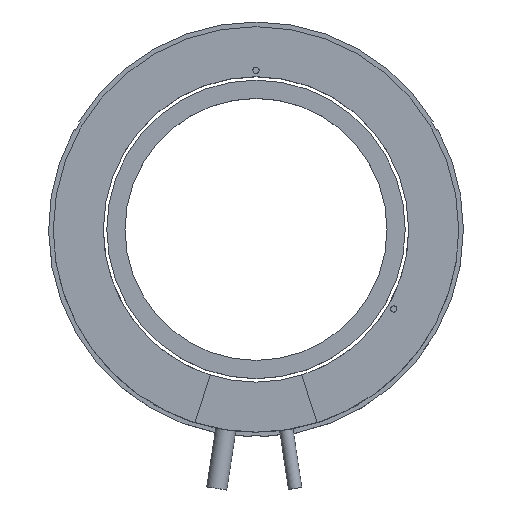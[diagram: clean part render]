
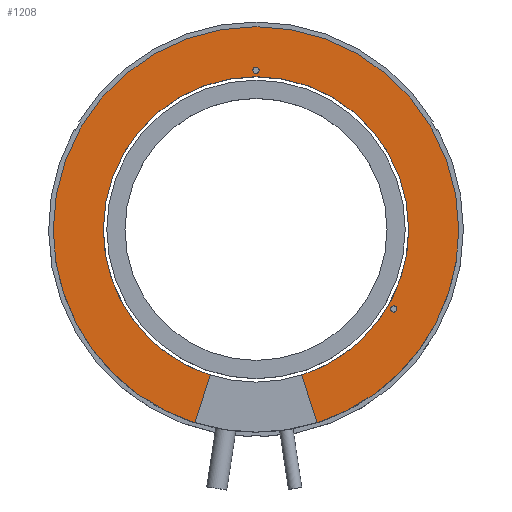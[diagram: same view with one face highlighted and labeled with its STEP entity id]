
A CAD part, top view. The second image highlights one B-rep face of the part: STEP entity #1208.
In plain terms, the highlighted planar face has unit normal (0, 0, 1).
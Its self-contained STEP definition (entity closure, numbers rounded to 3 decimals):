
#4 = DIRECTION ( 'NONE',  ( 1., 0., 0. ) ) ;
#9 = EDGE_LOOP ( 'NONE', ( #874, #283, #727, #1121, #146, #1449, #138, #382 ) ) ;
#34 = VERTEX_POINT ( 'NONE', #1109 ) ;
#52 = VERTEX_POINT ( 'NONE', #1225 ) ;
#61 = DIRECTION ( 'NONE',  ( 1., 0., 0. ) ) ;
#77 = DIRECTION ( 'NONE',  ( 1., 0., 0. ) ) ;
#138 = ORIENTED_EDGE ( 'NONE', *, *, #591, .F. ) ;
#146 = ORIENTED_EDGE ( 'NONE', *, *, #867, .F. ) ;
#148 = LINE ( 'NONE', #1209, #199 ) ;
#150 = DIRECTION ( 'NONE',  ( 0., 0., 1. ) ) ;
#157 = CIRCLE ( 'NONE', #842, 48.95 ) ;
#165 = AXIS2_PLACEMENT_3D ( 'NONE', #1161, #150, #1167 ) ;
#177 = DIRECTION ( 'NONE',  ( 0., 0., 1. ) ) ;
#185 = CIRCLE ( 'NONE', #1029, 65. ) ;
#199 = VECTOR ( 'NONE', #631, 1000. ) ;
#254 = CARTESIAN_POINT ( 'NONE',  ( 19.546, -61.992, 25. ) ) ;
#260 = VERTEX_POINT ( 'NONE', #1042 ) ;
#272 = EDGE_CURVE ( 'NONE', #722, #52, #693, .T. ) ;
#283 = ORIENTED_EDGE ( 'NONE', *, *, #710, .T. ) ;
#285 = CARTESIAN_POINT ( 'NONE',  ( 65., 0., 25. ) ) ;
#315 = DIRECTION ( 'NONE',  ( 0., 0., 1. ) ) ;
#329 = DIRECTION ( 'NONE',  ( 0., 0., 1. ) ) ;
#353 = AXIS2_PLACEMENT_3D ( 'NONE', #479, #932, #582 ) ;
#354 = AXIS2_PLACEMENT_3D ( 'NONE', #519, #976, #497 ) ;
#367 = EDGE_CURVE ( 'NONE', #1059, #260, #1242, .T. ) ;
#381 = CARTESIAN_POINT ( 'NONE',  ( 14.72, -46.684, 25. ) ) ;
#382 = ORIENTED_EDGE ( 'NONE', *, *, #984, .F. ) ;
#394 = DIRECTION ( 'NONE',  ( 0., 0., 1. ) ) ;
#471 = VERTEX_POINT ( 'NONE', #881 ) ;
#479 = CARTESIAN_POINT ( 'NONE',  ( 0., 0., 25. ) ) ;
#483 = EDGE_CURVE ( 'NONE', #260, #34, #1318, .T. ) ;
#493 = DIRECTION ( 'NONE',  ( 0., 0., 1. ) ) ;
#497 = DIRECTION ( 'NONE',  ( 1., 0., 0. ) ) ;
#519 = CARTESIAN_POINT ( 'NONE',  ( 0., 51., 25. ) ) ;
#527 = DIRECTION ( 'NONE',  ( 0., 0., 1. ) ) ;
#530 = EDGE_CURVE ( 'NONE', #1069, #1437, #1275, .T. ) ;
#534 = CARTESIAN_POINT ( 'NONE',  ( 48.95, 0., 25. ) ) ;
#542 = ORIENTED_EDGE ( 'NONE', *, *, #272, .F. ) ;
#545 = FACE_BOUND ( 'NONE', #1041, .T. ) ;
#581 = DIRECTION ( 'NONE',  ( 0., 0., 1. ) ) ;
#582 = DIRECTION ( 'NONE',  ( 1., 0., 0. ) ) ;
#591 = EDGE_CURVE ( 'NONE', #471, #910, #1394, .T. ) ;
#615 = VERTEX_POINT ( 'NONE', #254 ) ;
#621 = CIRCLE ( 'NONE', #354, 1. ) ;
#626 = AXIS2_PLACEMENT_3D ( 'NONE', #930, #329, #4 ) ;
#628 = DIRECTION ( 'NONE',  ( 1., 0., 0. ) ) ;
#631 = DIRECTION ( 'NONE',  ( -0.301, 0.954, 0. ) ) ;
#693 = CIRCLE ( 'NONE', #626, 1. ) ;
#710 = EDGE_CURVE ( 'NONE', #615, #1059, #185, .T. ) ;
#720 = ORIENTED_EDGE ( 'NONE', *, *, #766, .F. ) ;
#722 = VERTEX_POINT ( 'NONE', #971 ) ;
#727 = ORIENTED_EDGE ( 'NONE', *, *, #367, .T. ) ;
#729 = CARTESIAN_POINT ( 'NONE',  ( 0., 0., 25. ) ) ;
#759 = AXIS2_PLACEMENT_3D ( 'NONE', #729, #394, #1431 ) ;
#760 = FACE_OUTER_BOUND ( 'NONE', #9, .T. ) ;
#766 = EDGE_CURVE ( 'NONE', #52, #722, #621, .T. ) ;
#772 = ORIENTED_EDGE ( 'NONE', *, *, #530, .F. ) ;
#799 = VERTEX_POINT ( 'NONE', #381 ) ;
#822 = AXIS2_PLACEMENT_3D ( 'NONE', #534, #527, #77 ) ;
#841 = VERTEX_POINT ( 'NONE', #864 ) ;
#842 = AXIS2_PLACEMENT_3D ( 'NONE', #1000, #581, #1160 ) ;
#850 = CARTESIAN_POINT ( 'NONE',  ( 0., 0., 25. ) ) ;
#864 = CARTESIAN_POINT ( 'NONE',  ( -14.72, -46.684, 25. ) ) ;
#867 = EDGE_CURVE ( 'NONE', #841, #34, #888, .T. ) ;
#874 = ORIENTED_EDGE ( 'NONE', *, *, #1128, .F. ) ;
#881 = CARTESIAN_POINT ( 'NONE',  ( 48.95, 0., 25. ) ) ;
#888 = LINE ( 'NONE', #1365, #953 ) ;
#910 = VERTEX_POINT ( 'NONE', #1357 ) ;
#930 = CARTESIAN_POINT ( 'NONE',  ( 0., 51., 25. ) ) ;
#932 = DIRECTION ( 'NONE',  ( 0., 0., 1. ) ) ;
#945 = DIRECTION ( 'NONE',  ( 1., 0., 0. ) ) ;
#953 = VECTOR ( 'NONE', #1102, 1000. ) ;
#969 = CARTESIAN_POINT ( 'NONE',  ( 44.167, -25.5, 25. ) ) ;
#971 = CARTESIAN_POINT ( 'NONE',  ( -1., 51., 25. ) ) ;
#976 = DIRECTION ( 'NONE',  ( 0., 0., 1. ) ) ;
#984 = EDGE_CURVE ( 'NONE', #799, #471, #157, .T. ) ;
#997 = CARTESIAN_POINT ( 'NONE',  ( 45.167, -25.5, 25. ) ) ;
#1000 = CARTESIAN_POINT ( 'NONE',  ( 0., 0., 25. ) ) ;
#1029 = AXIS2_PLACEMENT_3D ( 'NONE', #1216, #177, #628 ) ;
#1041 = EDGE_LOOP ( 'NONE', ( #1285, #772 ) ) ;
#1042 = CARTESIAN_POINT ( 'NONE',  ( -65., 0., 25. ) ) ;
#1055 = EDGE_CURVE ( 'NONE', #910, #841, #1337, .T. ) ;
#1059 = VERTEX_POINT ( 'NONE', #285 ) ;
#1069 = VERTEX_POINT ( 'NONE', #1450 ) ;
#1102 = DIRECTION ( 'NONE',  ( -0.301, -0.954, 0. ) ) ;
#1107 = FACE_BOUND ( 'NONE', #1162, .T. ) ;
#1109 = CARTESIAN_POINT ( 'NONE',  ( -19.546, -61.992, 25. ) ) ;
#1121 = ORIENTED_EDGE ( 'NONE', *, *, #483, .T. ) ;
#1128 = EDGE_CURVE ( 'NONE', #615, #799, #148, .T. ) ;
#1160 = DIRECTION ( 'NONE',  ( 1., 0., 0. ) ) ;
#1161 = CARTESIAN_POINT ( 'NONE',  ( 44.167, -25.5, 25. ) ) ;
#1162 = EDGE_LOOP ( 'NONE', ( #720, #542 ) ) ;
#1167 = DIRECTION ( 'NONE',  ( 1., 0., 0. ) ) ;
#1168 = AXIS2_PLACEMENT_3D ( 'NONE', #850, #1325, #61 ) ;
#1178 = EDGE_CURVE ( 'NONE', #1437, #1069, #1293, .T. ) ;
#1208 = ADVANCED_FACE ( 'NONE', ( #545, #1107, #760 ), #1219, .T. ) ;
#1209 = CARTESIAN_POINT ( 'NONE',  ( 14.72, -46.684, 25. ) ) ;
#1216 = CARTESIAN_POINT ( 'NONE',  ( 0., 0., 25. ) ) ;
#1219 = PLANE ( 'NONE',  #822 ) ;
#1225 = CARTESIAN_POINT ( 'NONE',  ( 1., 51., 25. ) ) ;
#1242 = CIRCLE ( 'NONE', #759, 65. ) ;
#1259 = CARTESIAN_POINT ( 'NONE',  ( 0., 0., 25. ) ) ;
#1275 = CIRCLE ( 'NONE', #165, 1. ) ;
#1285 = ORIENTED_EDGE ( 'NONE', *, *, #1178, .F. ) ;
#1293 = CIRCLE ( 'NONE', #1463, 1. ) ;
#1318 = CIRCLE ( 'NONE', #1414, 65. ) ;
#1325 = DIRECTION ( 'NONE',  ( 0., 0., 1. ) ) ;
#1337 = CIRCLE ( 'NONE', #1168, 48.95 ) ;
#1357 = CARTESIAN_POINT ( 'NONE',  ( -48.95, 0., 25. ) ) ;
#1358 = DIRECTION ( 'NONE',  ( 1., 0., 0. ) ) ;
#1365 = CARTESIAN_POINT ( 'NONE',  ( -14.72, -46.684, 25. ) ) ;
#1394 = CIRCLE ( 'NONE', #353, 48.95 ) ;
#1414 = AXIS2_PLACEMENT_3D ( 'NONE', #1259, #315, #1358 ) ;
#1431 = DIRECTION ( 'NONE',  ( 1., 0., 0. ) ) ;
#1437 = VERTEX_POINT ( 'NONE', #997 ) ;
#1449 = ORIENTED_EDGE ( 'NONE', *, *, #1055, .F. ) ;
#1450 = CARTESIAN_POINT ( 'NONE',  ( 43.167, -25.5, 25. ) ) ;
#1463 = AXIS2_PLACEMENT_3D ( 'NONE', #969, #493, #945 ) ;
